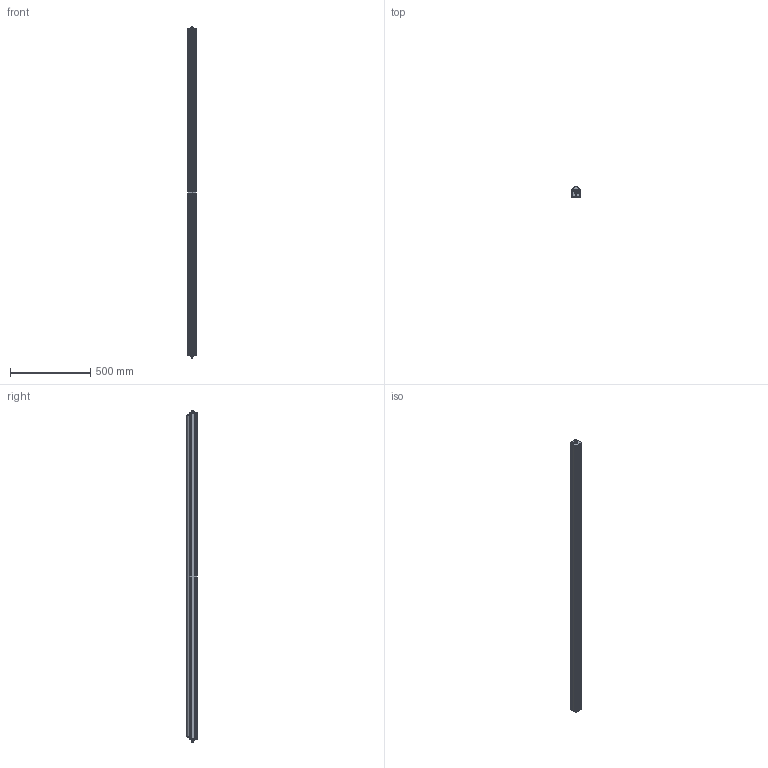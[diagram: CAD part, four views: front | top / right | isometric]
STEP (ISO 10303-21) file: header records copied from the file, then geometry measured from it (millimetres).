
FILE_DESCRIPTION (( 'STEP AP214' ), '1' );
FILE_NAME ('EFFI-FLEX2-2000-ZZZ-CYL-2M12P.STEP', '2026-06-18T10:15:19', ( '' ), ( '' ), 'SwSTEP 2.0', 'SolidWorks 2025', '' );
FILE_SCHEMA (( 'AUTOMOTIVE_DESIGN' ));
Length unit declared in the file: millimetre
Products named in the file (6): 001113; 018302-MODELE GENERIQUE; EFFI-FLEX2-2000-ZZZ-CYL-2M12P; 018941-MODELE GENERIQUE; 017872-MODELE GENERIQUE AVEC LENTILLE_2000; 000605
Assembly tree (13 placements, depth 2):
  EFFI-FLEX2-2000-ZZZ-CYL-2M12P
    017872-MODELE GENERIQUE AVEC LENTILLE_2000
    018302-MODELE GENERIQUE  x2
    000605  x6
    018941-MODELE GENERIQUE  x2
    001113  x2
Bounding box: 51.01 x 66.47 x 2068.96 mm (x, y, z)
Volume: 5265061.2 mm3; surface area: 866135.8 mm2
Topology: 21 solids, 29 shells, 1236 faces, 3082 edges, 1958 vertices
Faces by surface type: plane 536, cylinder 316, cone 194, bspline 114, torus 60, sphere 16
Entity records: 22367 total; most frequent: CARTESIAN_POINT 6360, ORIENTED_EDGE 3316, DIRECTION 3271, EDGE_CURVE 1658, AXIS2_PLACEMENT_3D 1185, VERTEX_POINT 1075, VECTOR 901, LINE 901
